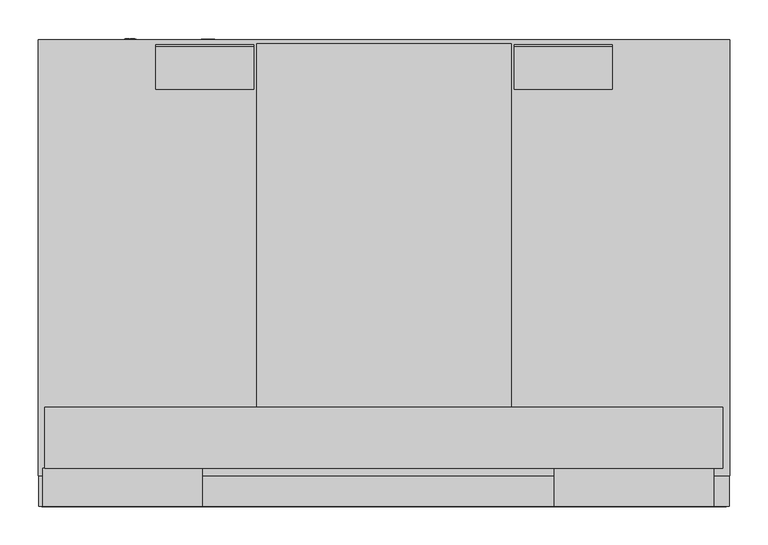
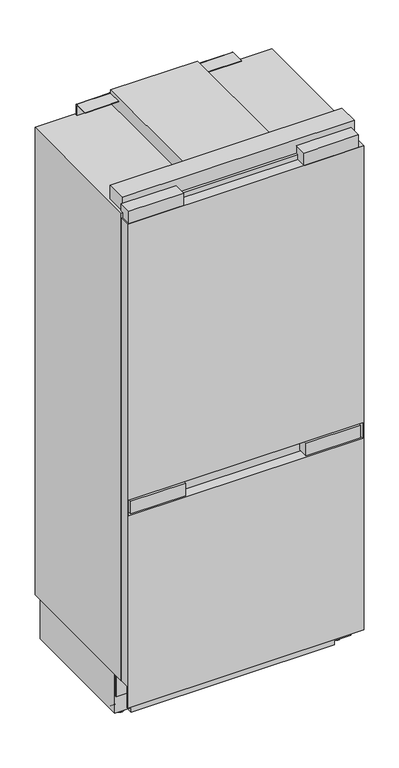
"""IFC4 building model written with IfcOpenShell, lengths in millimetres: proxy geometry, 12489500_USA_KFMC3642_FD : 38364220_USA_12489500_KFMC3642_FD."""

from ifc_helpers import new_model, si_unit, point, frame, frame_2d, origin, place, context, project, spatial, polyline, circle_curve, trimmed, segment, composite_curve, outline, extrude, faceted_brep, source, transform, mapped, element, save
from ifc_brep_helpers import plane_surface, cylinder_surface, advanced_brep


def specialty_equipment_6b789258(model_context):
    return source(origin(), model_context, "Body", "SolidModel", [
        faceted_brep([(450.5, 19.5805006, 2048.9273907), (450.5, 19.5805006, 100.0958717), (450.5, 22.474204, 100.0958717), (450.5, 22.474204, 187.4499998), (450.5, 95.0, 187.4499998), (450.5, 95.0, 100.0958717), (450.5, 99.0001378, 100.0958717), (450.5, 99.0001378, 2048.9273907), (-450.5, 19.5805006, 2048.9273907), (-450.5, 99.0001378, 2048.9273907), (-450.5, 99.0001378, 100.0958717), (-450.5, 95.0, 100.0958717), (-450.5, 95.0, 187.4499998), (-450.5, 22.474204, 187.4499998), (-450.5, 22.474204, 100.0958717), (-450.5, 19.5805006, 100.0958717), (-446.5, 19.5805006, 934.8801375), (446.5, 19.5805006, 934.8801375), (446.5, 19.5805006, 872.4), (-446.5, 19.5805006, 872.4), (446.5, 93.7083842, 934.8801375), (-446.5, 93.7083842, 934.8801375), (-446.5, 93.7083842, 872.4), (446.5, 93.7083842, 872.4)], [[[0, 1, 2, 3, 4, 5, 6, 7]], [[8, 9, 10, 11, 12, 13, 14, 15]], [[1, 0, 8, 15], [16, 17, 18, 19]], [[1, 15, 14, 2]], [[10, 6, 5, 11]], [[7, 6, 10, 9]], [[0, 7, 9, 8]], [[13, 3, 2, 14]], [[4, 12, 11, 5]], [[3, 13, 12, 4]], [[20, 21, 22, 23]], [[21, 20, 17, 16]], [[22, 21, 16, 19]], [[23, 22, 19, 18]], [[20, 23, 18, 17]]]),
        extrude(outline(polyline([(-229.8997253, 19.5805006), (-437.799475, 19.5805006), (-437.799475, 69.0), (-229.8997253, 69.0), (-229.8997253, 19.5805006)])), frame((0.0, 0.0, 878.4), z_axis=(0.0, 0.0, 1.0), x_axis=(1.0, 0.0, 0.0)), (0.0, 0.0, 1.0), 50.4801375),
        extrude(outline(polyline([(437.799475, 19.5805006), (229.8997253, 19.5805006), (229.8997253, 69.0), (437.799475, 69.0), (437.799475, 19.5805006)])), frame((0.0, 0.0, 878.4), z_axis=(0.0, 0.0, 1.0), x_axis=(1.0, 0.0, 0.0)), (0.0, 0.0, 1.0), 50.4801375),
        extrude(outline(polyline([(-237.4494506, 19.5805006), (-445.3492003, 19.5805006), (-445.3492003, 69.0), (-237.4494506, 69.0), (-237.4494506, 19.5805006)])), frame((0.0, 0.0, 2048.9273907), z_axis=(0.0, 0.0, 1.0), x_axis=(1.0, 0.0, 0.0)), (0.0, 0.0, 1.0), 50.4801375),
        extrude(outline(polyline([(430.2497498, 19.5805006), (222.35, 19.5805006), (222.35, 69.0), (430.2497498, 69.0), (430.2497498, 19.5805006)])), frame((0.0, 0.0, 2048.9273907), z_axis=(0.0, 0.0, 1.0), x_axis=(1.0, 0.0, 0.0)), (0.0, 0.0, 1.0), 50.4801375),
        extrude(outline(composite_curve([segment(trimmed(circle_curve(frame_2d((619.3046941, 2111.8999939)), 2.5), [point((619.3046941, 2114.3999939))], [point((621.8046941, 2111.8999939))], False, "CARTESIAN"), True, "CONTINUOUS"), segment(polyline([(621.8046941, 2111.8999939), (621.8046941, 2068.8999998), (619.3046941, 2068.8999998), (619.3046941, 2112.2000427), (563.7854458, 2112.2000427), (563.7854458, 2114.3999939), (619.3046941, 2114.3999939)]), True, "CONTINUOUS")], self_intersect=False)), frame((170.0666274, 0.0, 0.0), z_axis=(1.0, 0.0, 0.0), x_axis=(0.0, 1.0, 0.0)), (0.0, 0.0, 1.0), 127.807223),
        extrude(outline(composite_curve([segment(trimmed(circle_curve(frame_2d((619.3046941, 2111.8999939)), 2.5), [point((619.3046941, 2114.3999939))], [point((621.8046941, 2111.8999939))], False, "CARTESIAN"), True, "CONTINUOUS"), segment(polyline([(621.8046941, 2111.8999939), (621.8046941, 2068.8999998), (619.3046941, 2068.8999998), (619.3046941, 2112.2000427), (563.7854458, 2112.2000427), (563.7854458, 2114.3999939), (619.3046941, 2114.3999939)]), True, "CONTINUOUS")], self_intersect=False)), frame((-297.8738504, 0.0, 0.0), z_axis=(1.0, 0.0, 0.0), x_axis=(0.0, 1.0, 0.0)), (0.0, 0.0, 1.0), 127.807223),
        faceted_brep([(451.0, 628.6068181, 2068.8999998), (-451.0, 628.6068181, 2068.8999998), (-451.0, 59.5250826, 2068.8999998), (451.0, 59.5250826, 2068.8999998), (451.0, 628.6068181, 187.4499998), (451.0, 59.5250826, 187.4499998), (-451.0, 59.5250826, 187.4499998), (-451.0, 628.6068181, 187.4499998), (-402.0265198, 59.5250826, 1999.0), (402.0265198, 59.5250826, 1999.0), (402.0265198, 59.5250826, 920.0), (-402.0265198, 59.5250826, 920.0), (-402.0265198, 59.5250826, 777.0), (402.0265198, 59.5250826, 777.0), (402.0265198, 59.5250826, 250.0), (-402.0265198, 59.5250826, 250.0), (402.0265198, 551.4500008, 1999.0), (-402.0265198, 551.4500008, 1999.0), (-402.0265198, 551.4500008, 920.0), (402.0265198, 551.4500008, 920.0), (402.0265198, 535.9500008, 777.0), (-402.0265198, 535.9500008, 777.0), (-402.0265198, 535.9500008, 250.0), (402.0265198, 535.9500008, 250.0)], [[[0, 1, 2, 3]], [[4, 5, 6, 7]], [[0, 3, 5, 4]], [[3, 2, 6, 5], [8, 9, 10, 11], [12, 13, 14, 15]], [[2, 1, 7, 6]], [[1, 0, 4, 7]], [[16, 17, 18, 19]], [[17, 16, 9, 8]], [[18, 17, 8, 11]], [[19, 18, 11, 10]], [[16, 19, 10, 9]], [[20, 21, 22, 23]], [[21, 20, 13, 12]], [[22, 21, 12, 15]], [[23, 22, 15, 14]], [[20, 23, 14, 13]]]),
        advanced_brep(
        [(-449.5, 599.2160102, 187.4499998), (449.5, 599.2160102, 187.4499998), (449.5, 599.2160102, 27.500001), (387.3898346, 599.2160102, 27.500001), (387.3898346, 599.2160102, 10.4), (-387.3898346, 599.2160102, 10.4), (-387.3898346, 599.2160102, 27.500001), (-449.5, 599.2160102, 27.500001), (449.5, 104.7548689, 187.4499998), (-449.5, 104.7548689, 187.4499998), (-449.5, 104.7548689, 27.500001), (-387.3898346, 104.7548689, 27.500001), (-387.3898346, 104.7548689, 10.4), (387.3898346, 104.7548689, 10.4), (387.3898346, 104.7548689, 27.500001), (449.5, 104.7548689, 27.500001), (-406.4950732, 165.8982312, 25.006546), (-406.4950732, 215.9113232, 25.006546), (-406.4950732, 215.7866989, 27.500001), (-406.4950732, 166.0228555, 27.500001), (-406.4950732, 488.6286933, 25.006546), (-406.4950732, 538.6417854, 25.006546), (-406.4950732, 538.517161, 27.500001), (-406.4950732, 488.7533177, 27.500001), (-424.0, 215.9113232, 25.006546), (-424.0, 165.8982312, 25.006546), (-424.0, 166.0228555, 27.500001), (-424.0, 215.7866989, 27.500001), (-424.0, 538.6417854, 25.006546), (-424.0, 488.6286933, 25.006546), (-424.0, 488.7533177, 27.500001), (-424.0, 538.517161, 27.500001), (424.0, 165.898139, 25.006546), (424.0, 215.911231, 25.006546), (424.0, 215.7866067, 27.500001), (424.0, 166.0227633, 27.500001), (424.0, 488.6286933, 25.006546), (424.0, 538.6417854, 25.006546), (424.0, 538.517161, 27.500001), (424.0, 488.7533177, 27.500001), (406.4950732, 215.911231, 25.006546), (406.4950732, 165.898139, 25.006546), (406.4950732, 166.0227633, 27.500001), (406.4950732, 215.7866067, 27.500001), (406.4950732, 538.6417854, 25.006546), (406.4950732, 488.6286933, 25.006546), (406.4950732, 488.7533177, 27.500001), (406.4950732, 538.517161, 27.500001)],
        [
            (0, 1),
            (1, 2),
            (2, 3),
            (3, 4),
            (4, 5),
            (5, 6),
            (6, 7),
            (7, 0),
            (8, 9),
            (9, 10),
            (10, 11),
            (11, 12),
            (12, 13),
            (13, 14),
            (14, 15),
            (15, 8),
            (0, 9),
            (8, 1),
            (7, 10),
            (4, 13),
            (12, 5),
            (15, 2),
            (16, 17, circle_curve(frame((-406.4950732, 190.9047772, 25.006546), z_axis=(1.0, 0.0, 0.0), x_axis=(0.0, 1.0, 0.0)), 25.006546)),
            (17, 18, circle_curve(frame((-406.4950732, 190.9047772, 25.006546), z_axis=(1.0, 0.0, 0.0), x_axis=(0.0, 1.0, 0.0)), 25.006546)),
            (18, 19),
            (19, 16, circle_curve(frame((-406.4950732, 190.9047772, 25.006546), z_axis=(1.0, 0.0, 0.0), x_axis=(0.0, 1.0, 0.0)), 25.006546)),
            (20, 21, circle_curve(frame((-406.4950732, 513.6352393, 25.006546), z_axis=(1.0, 0.0, 0.0), x_axis=(0.0, 1.0, 0.0)), 25.006546)),
            (21, 22, circle_curve(frame((-406.4950732, 513.6352393, 25.006546), z_axis=(1.0, 0.0, 0.0), x_axis=(0.0, 1.0, 0.0)), 25.006546)),
            (22, 23),
            (23, 20, circle_curve(frame((-406.4950732, 513.6352393, 25.006546), z_axis=(1.0, 0.0, 0.0), x_axis=(0.0, 1.0, 0.0)), 25.006546)),
            (24, 25, circle_curve(frame((-424.0, 190.9047772, 25.006546), z_axis=(-1.0, 0.0, 0.0), x_axis=(0.0, 1.0, 0.0)), 25.006546)),
            (25, 26, circle_curve(frame((-424.0, 190.9047772, 25.006546), z_axis=(-1.0, 0.0, 0.0), x_axis=(0.0, 1.0, 0.0)), 25.006546)),
            (26, 27),
            (27, 24, circle_curve(frame((-424.0, 190.9047772, 25.006546), z_axis=(-1.0, 0.0, 0.0), x_axis=(0.0, 1.0, 0.0)), 25.006546)),
            (28, 29, circle_curve(frame((-424.0, 513.6352393, 25.006546), z_axis=(-1.0, 0.0, 0.0), x_axis=(0.0, 1.0, 0.0)), 25.006546)),
            (29, 30, circle_curve(frame((-424.0, 513.6352393, 25.006546), z_axis=(-1.0, 0.0, 0.0), x_axis=(0.0, 1.0, 0.0)), 25.006546)),
            (30, 31),
            (31, 28, circle_curve(frame((-424.0, 513.6352393, 25.006546), z_axis=(-1.0, 0.0, 0.0), x_axis=(0.0, 1.0, 0.0)), 25.006546)),
            (16, 25),
            (24, 17),
            (20, 29),
            (28, 21),
            (32, 33, circle_curve(frame((424.0, 190.904685, 25.006546), z_axis=(1.0, 0.0, 0.0), x_axis=(0.0, 1.0, 0.0)), 25.006546)),
            (33, 34, circle_curve(frame((424.0, 190.904685, 25.006546), z_axis=(1.0, 0.0, 0.0), x_axis=(0.0, 1.0, 0.0)), 25.006546)),
            (34, 35),
            (35, 32, circle_curve(frame((424.0, 190.904685, 25.006546), z_axis=(1.0, 0.0, 0.0), x_axis=(0.0, 1.0, 0.0)), 25.006546)),
            (36, 37, circle_curve(frame((424.0, 513.6352393, 25.006546), z_axis=(1.0, 0.0, 0.0), x_axis=(0.0, 1.0, 0.0)), 25.006546)),
            (37, 38, circle_curve(frame((424.0, 513.6352393, 25.006546), z_axis=(1.0, 0.0, 0.0), x_axis=(0.0, 1.0, 0.0)), 25.006546)),
            (38, 39),
            (39, 36, circle_curve(frame((424.0, 513.6352393, 25.006546), z_axis=(1.0, 0.0, 0.0), x_axis=(0.0, 1.0, 0.0)), 25.006546)),
            (40, 41, circle_curve(frame((406.4950732, 190.904685, 25.006546), z_axis=(-1.0, 0.0, 0.0), x_axis=(0.0, 1.0, 0.0)), 25.006546)),
            (41, 42, circle_curve(frame((406.4950732, 190.904685, 25.006546), z_axis=(-1.0, 0.0, 0.0), x_axis=(0.0, 1.0, 0.0)), 25.006546)),
            (42, 43),
            (43, 40, circle_curve(frame((406.4950732, 190.904685, 25.006546), z_axis=(-1.0, 0.0, 0.0), x_axis=(0.0, 1.0, 0.0)), 25.006546)),
            (44, 45, circle_curve(frame((406.4950732, 513.6352393, 25.006546), z_axis=(-1.0, 0.0, 0.0), x_axis=(0.0, 1.0, 0.0)), 25.006546)),
            (45, 46, circle_curve(frame((406.4950732, 513.6352393, 25.006546), z_axis=(-1.0, 0.0, 0.0), x_axis=(0.0, 1.0, 0.0)), 25.006546)),
            (46, 47),
            (47, 44, circle_curve(frame((406.4950732, 513.6352393, 25.006546), z_axis=(-1.0, 0.0, 0.0), x_axis=(0.0, 1.0, 0.0)), 25.006546)),
            (32, 41),
            (40, 33),
            (36, 45),
            (44, 37),
            (19, 26),
            (27, 18),
            (23, 30),
            (31, 22),
            (43, 34),
            (35, 42),
            (47, 38),
            (39, 46),
            (11, 6),
            (14, 3),
        ],
        [
            plane_surface(frame((-449.5, 599.2160102, 187.4499998), z_axis=(0.0, 1.0, 0.0), x_axis=(1.0, 0.0, 0.0))),
            plane_surface(frame((-449.5, 104.7548689, 187.4499998), z_axis=(0.0, -1.0, 0.0), x_axis=(-1.0, 0.0, 0.0))),
            plane_surface(frame((449.5, 104.7548689, 187.4499998), z_axis=(0.0, 0.0, 1.0), x_axis=(0.0, 1.0, 0.0))),
            plane_surface(frame((-449.5, 104.7548689, 187.4499998), z_axis=(-1.0, 0.0, 0.0), x_axis=(0.0, 1.0, 0.0))),
            plane_surface(frame((-449.5, 104.7548689, 10.4), z_axis=(0.0, 0.0, -1.0), x_axis=(0.0, 1.0, 0.0))),
            plane_surface(frame((449.5, 104.7548689, 10.4), z_axis=(1.0, 0.0, 0.0), x_axis=(0.0, 1.0, 0.0))),
            plane_surface(frame((-406.4950732, 215.9113232, 25.006546), z_axis=(1.0, 0.0, 0.0), x_axis=(0.0, 0.0, 1.0))),
            plane_surface(frame((-424.0, 215.9113232, 25.006546), z_axis=(-1.0, 0.0, 0.0), x_axis=(0.0, 0.0, -1.0))),
            cylinder_surface(frame((-424.0, 190.9047772, 25.006546), z_axis=(1.0, 0.0, 0.0), x_axis=(0.0, 1.0, 0.0)), 25.006546),
            cylinder_surface(frame((0.0, 513.6352393, 25.006546), z_axis=(1.0, 0.0, 0.0), x_axis=(0.0, 1.0, 0.0)), 25.006546),
            plane_surface(frame((424.0, 215.911231, 25.006546), z_axis=(1.0, 0.0, 0.0), x_axis=(0.0, 0.0, 1.0))),
            plane_surface(frame((406.4950732, 215.911231, 25.006546), z_axis=(-1.0, 0.0, 0.0), x_axis=(0.0, 0.0, -1.0))),
            cylinder_surface(frame((424.0, 190.904685, 25.006546), z_axis=(-1.0, 0.0, 0.0), x_axis=(0.0, 1.0, 0.0)), 25.006546),
            cylinder_surface(frame((0.0, 513.6352393, 25.006546), z_axis=(-1.0, 0.0, 0.0), x_axis=(0.0, 1.0, 0.0)), 25.006546),
            plane_surface(frame((-387.3898346, -429.4357797, 0.0), z_axis=(-1.0, 0.0, 0.0), x_axis=(0.0, 1.0, 0.0))),
            plane_surface(frame((-387.3898346, -429.4357797, 27.500001), z_axis=(0.0, 0.0, -1.0), x_axis=(0.0, 1.0, 0.0))),
            plane_surface(frame((451.0, -429.4357797, 27.500001), z_axis=(0.0, 0.0, -1.0), x_axis=(0.0, 1.0, 0.0))),
            plane_surface(frame((387.3898346, -429.4357797, 27.500001), z_axis=(1.0, 0.0, 0.0), x_axis=(0.0, 1.0, 0.0))),
        ],
        [
            (0, [[1, 2, 3, 4, 5, 6, 7, 8]]),
            (1, [[9, 10, 11, 12, 13, 14, 15, 16]]),
            (2, [[-1, 17, -9, 18]]),
            (3, [[-17, -8, 19, -10]]),
            (4, [[-5, 20, -13, 21]]),
            (5, [[-18, -16, 22, -2]]),
            (6, [[23, 24, 25, 26]]),
            (6, [[27, 28, 29, 30]]),
            (7, [[31, 32, 33, 34]]),
            (7, [[35, 36, 37, 38]]),
            (8, [[-23, 39, -31, 40]]),
            (9, [[-27, 41, -35, 42]]),
            (10, [[43, 44, 45, 46]]),
            (10, [[47, 48, 49, 50]]),
            (11, [[51, 52, 53, 54]]),
            (11, [[55, 56, 57, 58]]),
            (12, [[-43, 59, -51, 60]]),
            (13, [[-47, 61, -55, 62]]),
            (8, [[-39, -26, 63, -32]]),
            (8, [[-40, -34, 64, -24]]),
            (9, [[-41, -30, 65, -36]]),
            (9, [[-42, -38, 66, -28]]),
            (12, [[-60, -54, 67, -44]]),
            (12, [[-59, -46, 68, -52]]),
            (13, [[-62, -58, 69, -48]]),
            (13, [[-61, -50, 70, -56]]),
            (14, [[71, -6, -21, -12]]),
            (15, [[-71, -11, -19, -7], [-25, -64, -33, -63], [-29, -66, -37, -65]]),
            (16, [[72, -3, -22, -15], [-45, -67, -53, -68], [-49, -69, -57, -70]]),
            (17, [[-72, -14, -20, -4]]),
        ],
    ),
        extrude(outline(composite_curve([segment(trimmed(circle_curve(frame_2d((-413.6, 136.7)), 15.0), [point((-428.6, 136.7))], [point((-398.6, 136.7))], False, "CARTESIAN"), True, "CONTINUOUS"), segment(trimmed(circle_curve(frame_2d((-413.6, 136.7)), 15.0), [point((-398.6, 136.7))], [point((-428.6, 136.7))], False, "CARTESIAN"), True, "CONTINUOUS")], self_intersect=False)), frame((0.0, 0.0, 10.4), z_axis=(0.0, 0.0, 1.0), x_axis=(1.0, 0.0, 0.0)), (0.0, 0.0, 1.0), 3.4999939),
        extrude(outline(composite_curve([segment(trimmed(circle_curve(frame_2d((413.6, 136.7)), 15.0), [point((398.6, 136.7))], [point((428.6, 136.7))], False, "CARTESIAN"), True, "CONTINUOUS"), segment(trimmed(circle_curve(frame_2d((413.6, 136.7)), 15.0), [point((428.6, 136.7))], [point((398.6, 136.7))], False, "CARTESIAN"), True, "CONTINUOUS")], self_intersect=False)), frame((0.0, 0.0, 10.4), z_axis=(0.0, 0.0, 1.0), x_axis=(1.0, 0.0, 0.0)), (0.0, 0.0, 1.0), 3.4999939),
        extrude(outline(composite_curve([segment(trimmed(circle_curve(frame_2d((413.6, 136.7)), 10.0), [point((403.6, 136.7))], [point((423.6, 136.7))], False, "CARTESIAN"), True, "CONTINUOUS"), segment(trimmed(circle_curve(frame_2d((413.6, 136.7)), 10.0), [point((423.6, 136.7))], [point((403.6, 136.7))], False, "CARTESIAN"), True, "CONTINUOUS")], self_intersect=False)), frame((0.0, 0.0, 13.8999939), z_axis=(0.0, 0.0, 1.0), x_axis=(1.0, 0.0, 0.0)), (0.0, 0.0, 1.0), 13.6000071),
        extrude(outline(composite_curve([segment(trimmed(circle_curve(frame_2d((-413.6, 136.7)), 10.0), [point((-423.6, 136.7))], [point((-403.6, 136.7))], False, "CARTESIAN"), True, "CONTINUOUS"), segment(trimmed(circle_curve(frame_2d((-413.6, 136.7)), 10.0), [point((-403.6, 136.7))], [point((-423.6, 136.7))], False, "CARTESIAN"), True, "CONTINUOUS")], self_intersect=False)), frame((0.0, 0.0, 13.8999939), z_axis=(0.0, 0.0, 1.0), x_axis=(1.0, 0.0, 0.0)), (0.0, 0.0, 1.0), 13.6000071),
        faceted_brep([(166.0, 623.4547186, 2122.8999939), (-166.0, 623.4547186, 2122.8999939), (-166.0, 149.0, 2122.8999939), (166.0, 149.0, 2122.8999939), (-166.0, 623.4547186, 2068.8999998), (166.0, 623.4547186, 2068.8999998), (166.0, 149.0, 2068.8999998), (442.1341127, 149.0, 2068.8999998), (442.1341127, 69.0, 2068.8999998), (-442.7652816, 69.0, 2068.8999998), (-442.7652816, 149.0, 2068.8999998), (-166.0, 149.0, 2068.8999998), (442.1341127, 69.0, 2124.5509637), (442.1341127, 149.0, 2124.5509637), (-442.7652816, 69.0, 2124.5509637), (-442.7652816, 149.0, 2124.5509637)], [[[0, 1, 2, 3]], [[4, 5, 6, 7, 8, 9, 10, 11]], [[5, 0, 3, 6]], [[1, 0, 5, 4]], [[1, 4, 11, 2]], [[12, 8, 7, 13]], [[14, 15, 10, 9]], [[8, 12, 14, 9]], [[13, 7, 6, 3, 2, 11, 10, 15]], [[12, 13, 15, 14]]]),
        extrude(outline(composite_curve([segment(trimmed(circle_curve(frame_2d((68.8909912, -331.0)), 8.0), [point((68.8909912, -339.0))], [point((68.8909912, -323.0))], False, "CARTESIAN"), True, "CONTINUOUS"), segment(trimmed(circle_curve(frame_2d((68.8909912, -331.0)), 8.0), [point((68.8909912, -323.0))], [point((68.8909912, -339.0))], False, "CARTESIAN"), True, "CONTINUOUS")], self_intersect=False)), frame((0.0, 599.2160102, 0.0), z_axis=(0.0, 1.0, 0.0), x_axis=(0.0, 0.0, 1.0)), (0.0, 0.0, 1.0), 30.0),
        extrude(outline(polyline([(64.7404068, -325.0981918), (72.7769116, -325.0981918), (72.7769116, -330.8744296), (71.7723485, -330.8744296), (71.7723485, -326.1027549), (69.3865111, -326.1027549), (69.3865111, -330.6232888), (68.381948, -330.6232888), (68.381948, -326.1027549), (65.7449699, -326.1027549), (65.7449699, -331.0), (64.7404068, -331.0), (64.7404068, -325.0981918)])), frame((0.0, 629.2160102, 0.0), z_axis=(0.0, 1.0, 0.0), x_axis=(0.0, 0.0, 1.0)), (0.0, 0.0, 1.0), 1.0),
        extrude(outline(polyline([(64.7404068, -332.5068447), (72.7769116, -332.5068447), (72.7769116, -333.5114078), (65.7449699, -333.5114078), (65.7449699, -337.5296602), (64.7404068, -337.5296602), (64.7404068, -332.5068447)])), frame((0.0, 629.2160102, 0.0), z_axis=(0.0, 1.0, 0.0), x_axis=(0.0, 0.0, 1.0)), (0.0, 0.0, 1.0), 1.0),
        extrude(outline(composite_curve([segment(trimmed(circle_curve(frame_2d((38.8909912, -229.0)), 8.0), [point((38.8909912, -237.0))], [point((38.8909912, -221.0))], False, "CARTESIAN"), True, "CONTINUOUS"), segment(trimmed(circle_curve(frame_2d((38.8909912, -229.0)), 8.0), [point((38.8909912, -221.0))], [point((38.8909912, -237.0))], False, "CARTESIAN"), True, "CONTINUOUS")], self_intersect=False)), frame((0.0, 599.2160102, 0.0), z_axis=(0.0, 1.0, 0.0), x_axis=(0.0, 0.0, 1.0)), (0.0, 0.0, 1.0), 30.0),
        extrude(outline(polyline([(35.5144425, -229.9875487), (43.5509473, -227.795953), (43.5509473, -228.8319087), (38.2691429, -230.1033089), (36.6386899, -230.4957164), (38.0807873, -230.9155923), (43.5509473, -232.5087666), (43.5509473, -234.001877), (39.5856699, -235.159479), (36.6386899, -236.0208134), (38.222054, -236.4014486), (43.5509473, -237.684621), (43.5509473, -238.7205767), (35.5144425, -236.527019), (35.5144425, -235.4537846), (41.7144804, -233.527064), (42.5797389, -233.2582649), (41.5378971, -232.9561111), (35.5144425, -231.2000877), (35.5144425, -229.9875487)])), frame((0.0, 628.6068181, 0.0), z_axis=(0.0, 1.0, 0.0), x_axis=(0.0, 0.0, 1.0)), (0.0, 0.0, 1.0), 1.0),
        extrude(outline(polyline([(35.5144425, -221.1407225), (43.5509473, -221.1407225), (43.5509473, -222.1452856), (39.6170625, -222.1452856), (43.5509473, -226.2655639), (43.5509473, -227.6703826), (40.2468765, -224.2113109), (35.5144425, -227.795953), (35.5144425, -226.5677177), (39.5680116, -223.4990913), (38.2769911, -222.1452856), (35.5144425, -222.1452856), (35.5144425, -221.1407225)])), frame((0.0, 628.6068181, 0.0), z_axis=(0.0, 1.0, 0.0), x_axis=(0.0, 0.0, 1.0)), (0.0, 0.0, 1.0), 1.0),
    ])


if __name__ == "__main__":
    model = new_model("IFC4")
    model_context = context("Model", 3, world=origin())
    ifc_project = project(units=[si_unit("LENGTHUNIT", "METRE", prefix="MILLI")], contexts=[model_context])
    site = spatial("IfcSite", under=ifc_project)
    building = spatial("IfcBuilding", under=site)
    placement = place(None, origin())
    specialty_equipment_shape = specialty_equipment_6b789258(model_context)
    element("IfcBuildingElementProxy", 1, Name="12489500_USA_KFMC3642_FD : 38364220_USA_12489500_KFMC3642_FD", ObjectType="12489500_USA_KFMC3642_FD : 38364220_USA_12489500_KFMC3642_FD", at=placement, inside=building, context=model_context, shape_type="MappedRepresentation", body=[
        mapped(specialty_equipment_shape, transform((0.0, 0.0, 0.0), x_axis=(1.0, 0.0, 0.0), y_axis=(0.0, 1.0, 0.0), z_axis=(0.0, 0.0, 1.0))),
    ])
    save(model, "model.ifc")
